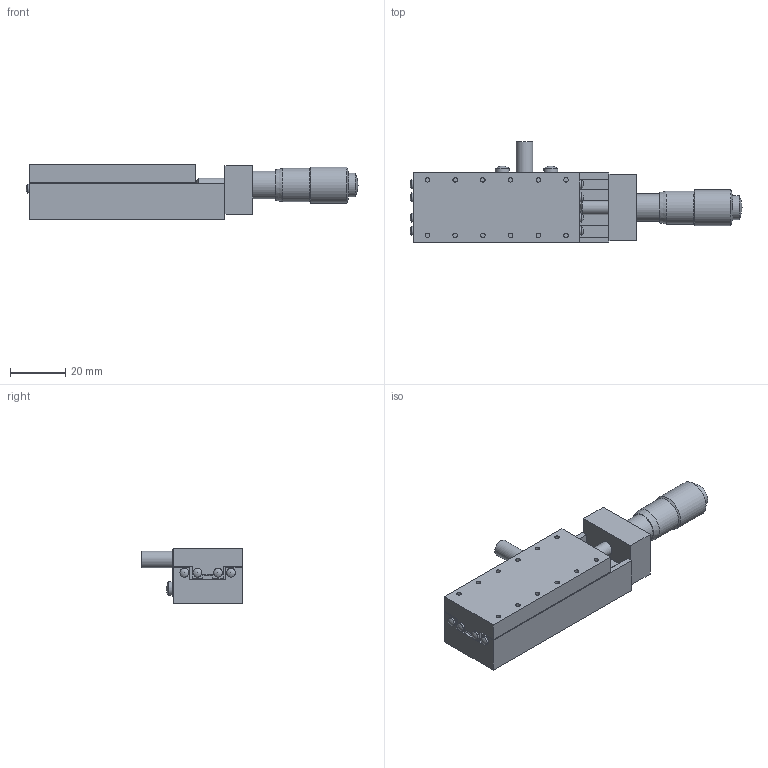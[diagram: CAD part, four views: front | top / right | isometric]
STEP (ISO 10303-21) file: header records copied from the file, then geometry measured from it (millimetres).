
FILE_DESCRIPTION( ( 'STEP AP214' ), '1' );
FILE_NAME( 'C:/Project/3D_B12-25A-配布-070508.stp', '2007-05-08T10:42:33', ( ' ' ), ( ' ' ), 'XStep 1.0', ' ', ' ' );
FILE_SCHEMA( ( 'automotive_design' ) );
Length unit declared in the file: millimetre
Products named in the file (3): 1; 2; 3
Bounding box: 119.8 x 36.3 x 20 mm (x, y, z)
Volume: 37944.8 mm3; surface area: 17877.6 mm2
Topology: 3 solids, 3 shells, 119 faces, 331 edges, 223 vertices
Faces by surface type: cylinder 53, plane 51, sphere 12, cone 3
Full cylindrical faces by diameter (mm): 1.6 x24, 3 x1, 3.2 x8, 4.5 x2, 5 x4, 6 x1, 8 x2, 8.6 x1, 10 x1, 10.5 x1, 12 x1, 13 x1
Entity records: 4120 total; most frequent: DIRECTION 556, CARTESIAN_POINT 510, ORIENTED_EDGE 434, EDGE_LOOP 218, AXIS2_PLACEMENT_3D 217, EDGE_CURVE 217, VERTEX_POINT 171, FACE_OUTER_BOUND 166
